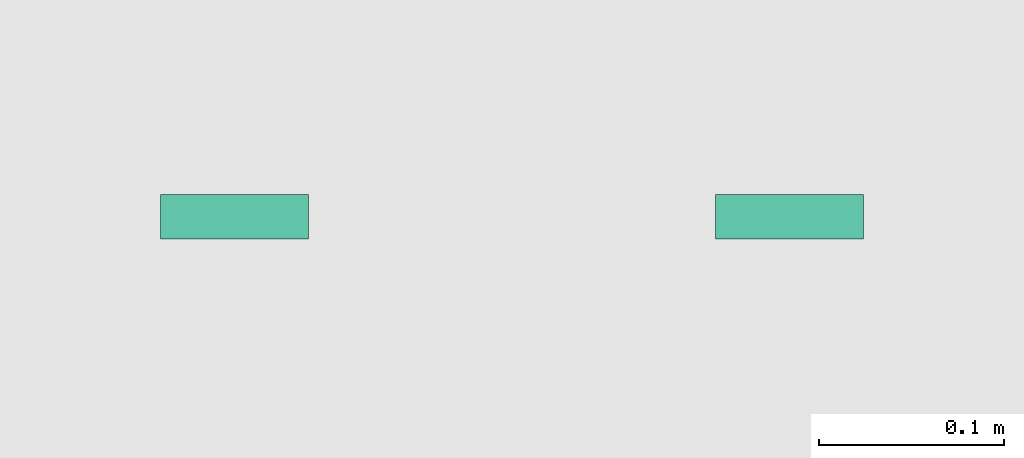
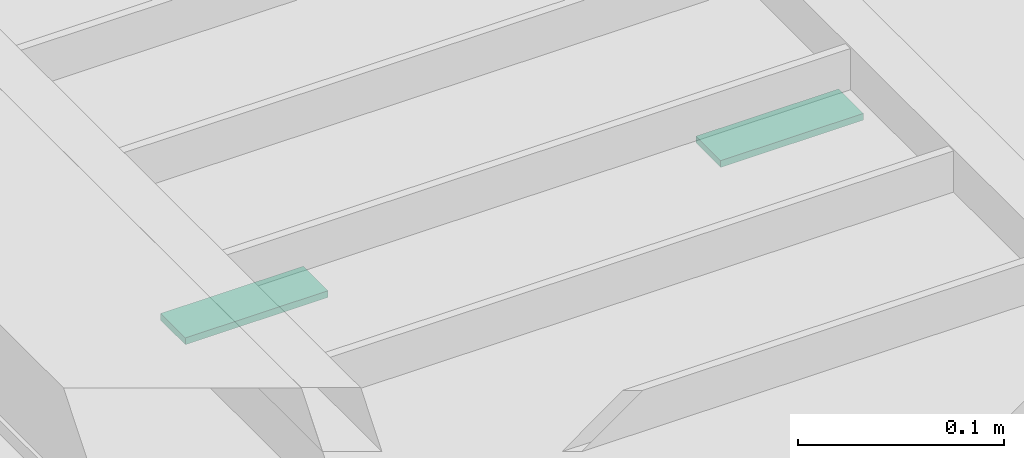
# One storey, part 68 of 90: 2 distribution chamber elements.
"""IFC2X3 building model written with IfcOpenShell, lengths in metres."""

from ifc_helpers import new_model, si_unit, origin, origin_with_axes, place, context, subcontext, project, spatial, faceted_brep, element, save


model = new_model("IFC2X3")

# Units and contexts
model_context = context("Model", 3, precision=1e-05, world=origin_with_axes())
body_context = subcontext(model_context, "Body", "Model", "MODEL_VIEW")
ifc_project = project(units=[si_unit("LENGTHUNIT", "METRE"), si_unit("AREAUNIT", "SQUARE_METRE"), si_unit("VOLUMEUNIT", "CUBIC_METRE"), si_unit("PLANEANGLEUNIT", "RADIAN")], contexts=[model_context])

# Site, building, storey
site_placement = place(None, origin_with_axes())
site = spatial("IfcSite", under=ifc_project, at=site_placement, Name="Predio Los Mangos - Morales, San Martín", CompositionType="ELEMENT")
building_placement = place(site_placement, origin())
building = spatial("IfcBuilding", under=site, at=building_placement, Name="Hogar de Refugio Temporal", CompositionType="ELEMENT")
storey_placement = place(building_placement, origin())
storey = spatial("IfcBuildingStorey", under=building, at=storey_placement, Name="NIVEL 1 (NPT +0.00)", CompositionType="ELEMENT", Elevation=0.0)

# Distribution chamber elements
distribution_chamber_element_1_placement = place(storey_placement, origin())
element("IfcDistributionChamberElement", 1, at=distribution_chamber_element_1_placement, inside=storey, Name="tapa_insp_asa", ObjectType="Tapa de inspección", context=body_context, shape_type="Brep", body=[
    faceted_brep([(60.545, 26.214, 0.104), (60.545, 26.238, 0.104), (60.625, 26.238, 0.104), (60.625, 26.214, 0.104), (60.545, 26.214, 0.108), (60.625, 26.214, 0.108), (60.625, 26.238, 0.108), (60.545, 26.238, 0.108)], [[[0, 1, 2, 3]], [[4, 5, 6, 7]], [[0, 3, 5, 4]], [[3, 2, 6, 5]], [[2, 1, 7, 6]], [[1, 0, 4, 7]]]),
])
distribution_chamber_element_2_placement = place(storey_placement, origin())
element("IfcDistributionChamberElement", 2, at=distribution_chamber_element_2_placement, inside=storey, Name="tapa_insp_asa", ObjectType="Tapa de inspección", context=body_context, shape_type="Brep", body=[
    faceted_brep([(60.845, 26.214, 0.104), (60.845, 26.238, 0.104), (60.925, 26.238, 0.104), (60.925, 26.214, 0.104), (60.845, 26.214, 0.108), (60.925, 26.214, 0.108), (60.925, 26.238, 0.108), (60.845, 26.238, 0.108)], [[[0, 1, 2, 3]], [[4, 5, 6, 7]], [[0, 3, 5, 4]], [[3, 2, 6, 5]], [[2, 1, 7, 6]], [[1, 0, 4, 7]]]),
])

save(model, "model.ifc")
